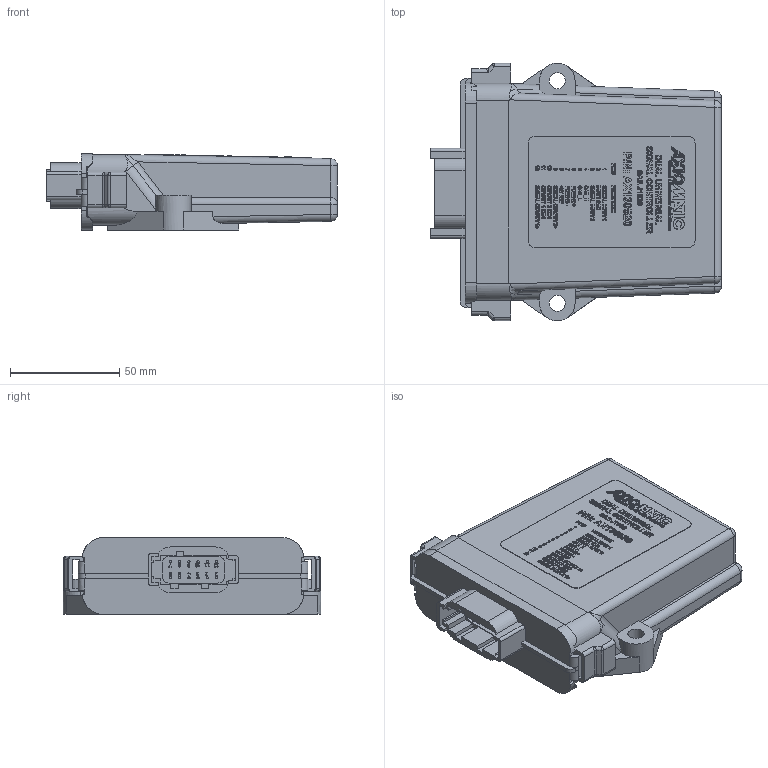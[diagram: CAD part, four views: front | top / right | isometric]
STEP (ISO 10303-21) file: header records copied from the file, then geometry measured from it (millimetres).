
FILE_DESCRIPTION(/* description */ (''),/* implementation_level */ '2;1');
FILE_NAME(/* name */ 'S:\Projects\2IN-2OUT-SIG-LC, AX130520, Proj_15009\UNIT ASSEMBLY\RELEASED\P2\AX130520.stp',/* time_stamp */ '2017-07-26T10:05:53-04:00',/* author */ ('tfisher'),/* organization */ (''),/* preprocessor_version */ 'ST-DEVELOPER v15.2',/* originating_system */ 'Autodesk Inventor 2014',/* authorisation */ '');
FILE_SCHEMA (('AUTOMOTIVE_DESIGN { 1 0 10303 214 3 1 1 }'));
Products named in the file (1): AX130520 for STEP_Shrinkwrap_1
Bounding box: 132.9 x 117.86 x 35 mm (x, y, z)
Volume: 123844.4 mm3; surface area: 82770.7 mm2
Topology: 1 solids, 4 shells, 4015 faces, 10783 edges, 7145 vertices
Faces by surface type: plane 2677, bspline 1104, cylinder 199, torus 13, cone 12, sphere 10
Full cylindrical faces by diameter (mm): 1.041 x48, 7.366 x2
Entity records: 133425 total; most frequent: CARTESIAN_POINT 36235, ORIENTED_EDGE 21424, DIRECTION 14815, EDGE_CURVE 10712, LINE 7977, VECTOR 7977, VERTEX_POINT 7145, EDGE_LOOP 4513
